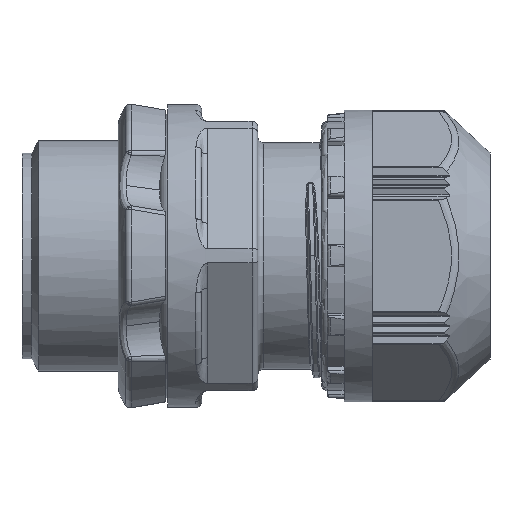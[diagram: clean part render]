
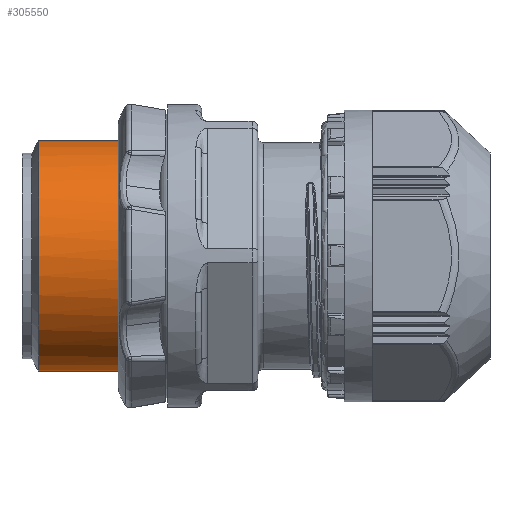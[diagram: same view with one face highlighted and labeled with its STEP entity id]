
A CAD part, top view. The second image highlights one B-rep face of the part: STEP entity #305550.
In plain terms, the highlighted cylindrical face has radius 10.3 mm (diameter 20.6 mm), a partial arc.
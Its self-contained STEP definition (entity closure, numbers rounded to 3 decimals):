
#196930=CARTESIAN_POINT('',(84.96,40.387,0.));
#196940=DIRECTION('',(1.,0.,0.));
#196950=DIRECTION('',(0.,-1.,0.));
#196960=AXIS2_PLACEMENT_3D('',#196930,#196940,#196950);
#196970=CIRCLE('',#196960,10.3);
#196980=CARTESIAN_POINT('',(84.96,30.087,0.));
#196990=VERTEX_POINT('',#196980);
#197000=CARTESIAN_POINT('',(84.96,50.687,
0.));
#197010=VERTEX_POINT('',#197000);
#197040=CARTESIAN_POINT('',(84.96,44.711,
9.348));
#197050=VERTEX_POINT('',#197040);
#197060=EDGE_CURVE('',#197050,#196990,#196970,.T.);
#197080=EDGE_CURVE('',#197010,#197050,#196970,.T.);
#281030=CARTESIAN_POINT('',(73.446,50.687,
0.));
#281040=VERTEX_POINT('',#281030);
#281070=CARTESIAN_POINT('',(73.446,40.387,0.));
#281080=DIRECTION('',(1.,0.,0.));
#281090=DIRECTION('',(0.,1.,0.));
#281100=AXIS2_PLACEMENT_3D('',#281070,#281080,#281090);
#281110=CIRCLE('',#281100,10.3);
#281120=CARTESIAN_POINT('',(73.446,30.087,0.));
#281130=VERTEX_POINT('',#281120);
#281140=EDGE_CURVE('',#281040,#281130,#281110,.T.);
#302170=CARTESIAN_POINT('',(79.203,40.387,0.));
#302180=DIRECTION('',(1.,0.,0.));
#302190=DIRECTION('',(0.,-1.,0.));
#302200=AXIS2_PLACEMENT_3D('',#302170,#302180,#302190);
#302210=CYLINDRICAL_SURFACE('',#302200,10.3);
#302220=CARTESIAN_POINT('',(79.203,30.087,0.));
#302230=DIRECTION('',(1.,0.,0.));
#302240=VECTOR('',#302230,1.);
#302250=LINE('',#302220,#302240);
#302260=EDGE_CURVE('',#281130,#196990,#302250,.T.);
#302290=CARTESIAN_POINT('',(79.203,50.687,
0.));
#302300=DIRECTION('',(1.,0.,0.));
#302310=VECTOR('',#302300,1.);
#302320=LINE('',#302290,#302310);
#302330=EDGE_CURVE('',#281040,#197010,#302320,.T.);
#305480=ORIENTED_EDGE('',*,*,#197060,.F.);
#305490=ORIENTED_EDGE('',*,*,#302260,.T.);
#305500=ORIENTED_EDGE('',*,*,#281140,.T.);
#305510=ORIENTED_EDGE('',*,*,#302330,.F.);
#305520=ORIENTED_EDGE('',*,*,#197080,.F.);
#305530=EDGE_LOOP('',(#305520,#305510,#305500,#305490,#305480));
#305540=FACE_OUTER_BOUND('',#305530,.T.);
#305550=ADVANCED_FACE('',(#305540),#302210,.T.);
